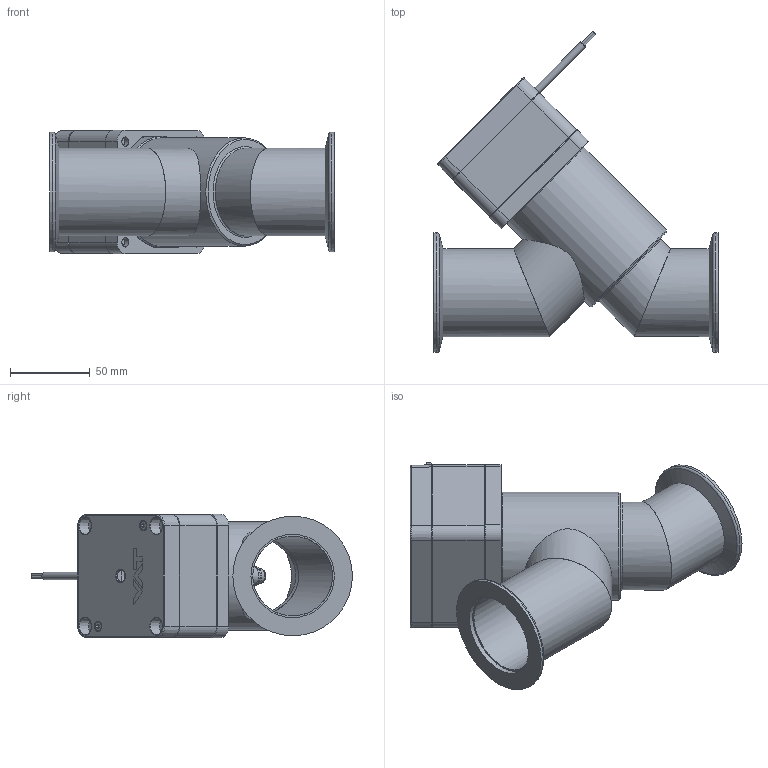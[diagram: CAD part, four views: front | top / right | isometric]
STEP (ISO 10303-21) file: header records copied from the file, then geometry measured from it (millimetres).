
FILE_DESCRIPTION(/* description */ (''),/* implementation_level */ '2;1');
FILE_NAME(/* name */ '1004237338_203.stp',/* time_stamp */ '2013-07-16T11:10:39+02:00',/* author */ (''),/* organization */ (''),/* preprocessor_version */ 'ST-DEVELOPER v11',/* originating_system */ 'SIEMENS PLM Software NX 7.5',/* authorisation */ '');
FILE_SCHEMA (('AP203_CONFIGURATION_CONTROLLED_3D_DESIGN_OF_MECHANICAL_PARTS_AND_ASSEMBLIES_MIM_LF'));
Length unit declared in the file: millimetre
Products named in the file (15): 379203; 252497.8; 379229; 379196; 379192; 245150; 229101.2; 239888_6.1; 236204_1.1; 245085.3; 245123.5; 224813.1; 379209; 402936; 414434
Assembly tree (19 placements, depth 3):
  414434
    402936
      236204_1.1  x2
      239888_6.1
      229101.2  x2
      245150
    379209
      379192
      379196
      379229
      252497.8
      379203
    224813.1  x4
    245123.5
    245085.3
Bounding box: 178 x 201.02 x 77.4 mm (x, y, z)
Volume: 278197.8 mm3; surface area: 182440.9 mm2
Topology: 25 solids, 25 shells, 660 faces, 1601 edges, 1036 vertices
Faces by surface type: plane 392, cylinder 133, cone 97, bspline 19, torus 17, sphere 2
Full cylindrical faces by diameter (mm): 1.4 x8, 1.8 x1, 2 x6, 2.2 x4, 2.5 x2, 3 x4, 4.134 x1, 4.4 x1, 4.6 x1, 4.7 x2, 4.96 x4, 5 x5, 5.6 x2, 6 x12, 6.4 x4, 7.4 x1, 8.175 x1, 9.1 x1, 10 x5, 11.975 x3, 12.015 x1, 12.25 x2, 14 x1, 14.009 x1, 16.6 x1, 22.4 x1, 50 x5, 52.2 x2, 55 x4, 63 x1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
Entity records: 18660 total; most frequent: CARTESIAN_POINT 3799, DIRECTION 2547, ORIENTED_EDGE 2394, EDGE_CURVE 1197, AXIS2_PLACEMENT_3D 926, VERTEX_POINT 853, EDGE_LOOP 782, LINE 695
